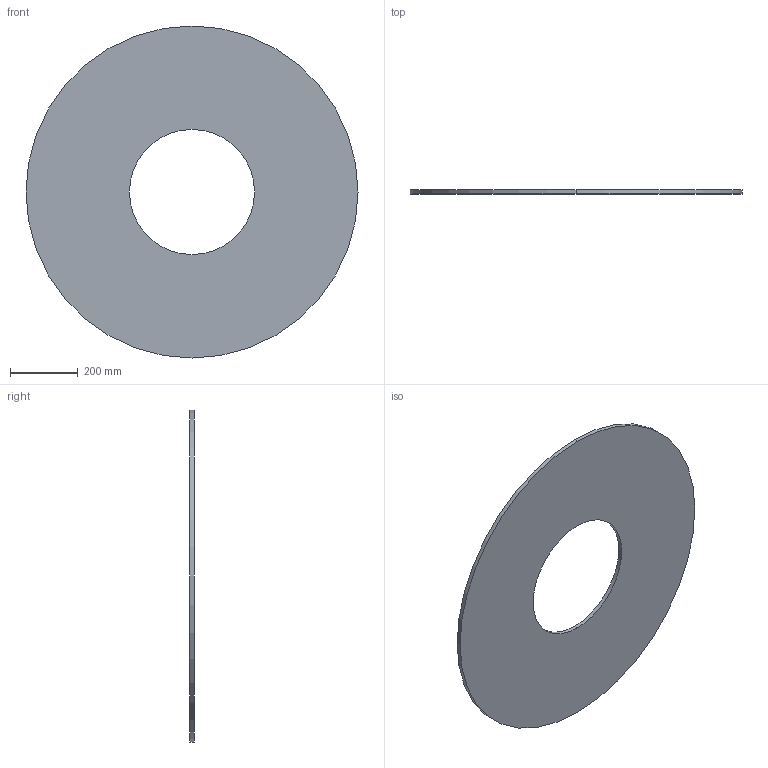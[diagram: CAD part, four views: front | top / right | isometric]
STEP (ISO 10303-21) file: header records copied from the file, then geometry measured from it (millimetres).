
FILE_DESCRIPTION (( 'STEP AP203' ), '1' );
FILE_NAME ('3D_R152_DN300_17305310.STEP', '2024-08-13T08:02:58', ( '' ), ( '' ), 'SwSTEP 2.0', 'SolidWorks 2024', '' );
FILE_SCHEMA (( 'CONFIG_CONTROL_DESIGN' ));
Length unit declared in the file: millimetre
Products named in the file (1): 3D_R152_DN300_17305310
Bounding box: 982 x 12 x 982 mm (x, y, z)
Volume: 7798287.5 mm3; surface area: 1350683.8 mm2
Topology: 1 solids, 1 shells, 6 faces, 12 edges, 8 vertices
Faces by surface type: cylinder 4, plane 2
Entity records: 245 total; most frequent: DIRECTION 34, CARTESIAN_POINT 27, ORIENTED_EDGE 24, AXIS2_PLACEMENT_3D 15, EDGE_CURVE 12, VERTEX_POINT 8, EDGE_LOOP 8, PERSON_AND_ORGANIZATION 8
